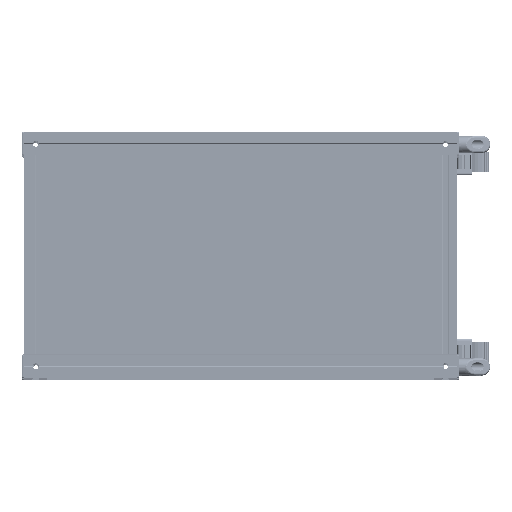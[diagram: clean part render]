
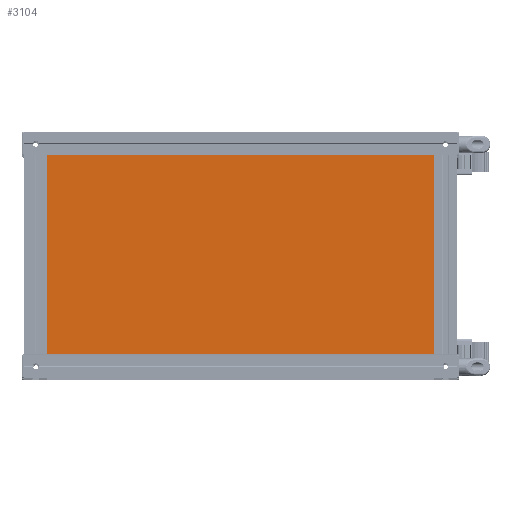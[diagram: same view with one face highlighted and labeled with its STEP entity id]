
A CAD part, top view. The second image highlights one B-rep face of the part: STEP entity #3104.
In plain terms, the highlighted planar face has unit normal (0, 0, 1).
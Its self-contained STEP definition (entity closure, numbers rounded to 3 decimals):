
#3104=ADVANCED_FACE('',(#68640),#68642,.T.);
#68640=FACE_BOUND('',#68641,.T.);
#68641=EDGE_LOOP('',(#124591,#124592,#124593,#124594));
#68642=PLANE('',#68643);
#68643=AXIS2_PLACEMENT_3D('',#68644,#68645,#68646);
#68644=CARTESIAN_POINT('',(0.,0.,5.));
#68645=DIRECTION('',(0.,0.,1.));
#68646=DIRECTION('',(-1.,0.,0.));
#124591=ORIENTED_EDGE('',*,*,#169696,.T.);
#124592=ORIENTED_EDGE('',*,*,#169700,.T.);
#124593=ORIENTED_EDGE('',*,*,#169703,.T.);
#124594=ORIENTED_EDGE('',*,*,#169705,.T.);
#169696=EDGE_CURVE('',#192233,#192231,#192234,.T.);
#169700=EDGE_CURVE('',#192231,#192238,#192240,.T.);
#169703=EDGE_CURVE('',#192238,#192243,#192245,.T.);
#169705=EDGE_CURVE('',#192243,#192233,#192247,.T.);
#192231=VERTEX_POINT('',#229911);
#192233=VERTEX_POINT('',#229915);
#192234=LINE('',#229916,#229917);
#192238=VERTEX_POINT('',#229926);
#192240=LINE('',#229930,#229931);
#192243=VERTEX_POINT('',#229937);
#192245=LINE('',#229941,#229942);
#192247=LINE('',#229947,#229948);
#229911=CARTESIAN_POINT('',(-30.,-30.,5.));
#229915=CARTESIAN_POINT('',(-30.,-390.,5.));
#229916=CARTESIAN_POINT('',(-30.,-390.,5.));
#229917=VECTOR('',#229918,1.);
#229918=DIRECTION('',(0.,1.,0.));
#229926=CARTESIAN_POINT('',(-710.,-30.,5.));
#229930=CARTESIAN_POINT('',(-30.,-30.,5.));
#229931=VECTOR('',#229932,1.);
#229932=DIRECTION('',(-1.,0.,0.));
#229937=CARTESIAN_POINT('',(-710.,-390.,5.));
#229941=CARTESIAN_POINT('',(-710.,-30.,5.));
#229942=VECTOR('',#229943,1.);
#229943=DIRECTION('',(0.,-1.,0.));
#229947=CARTESIAN_POINT('',(-710.,-390.,5.));
#229948=VECTOR('',#229949,1.);
#229949=DIRECTION('',(1.,0.,0.));
